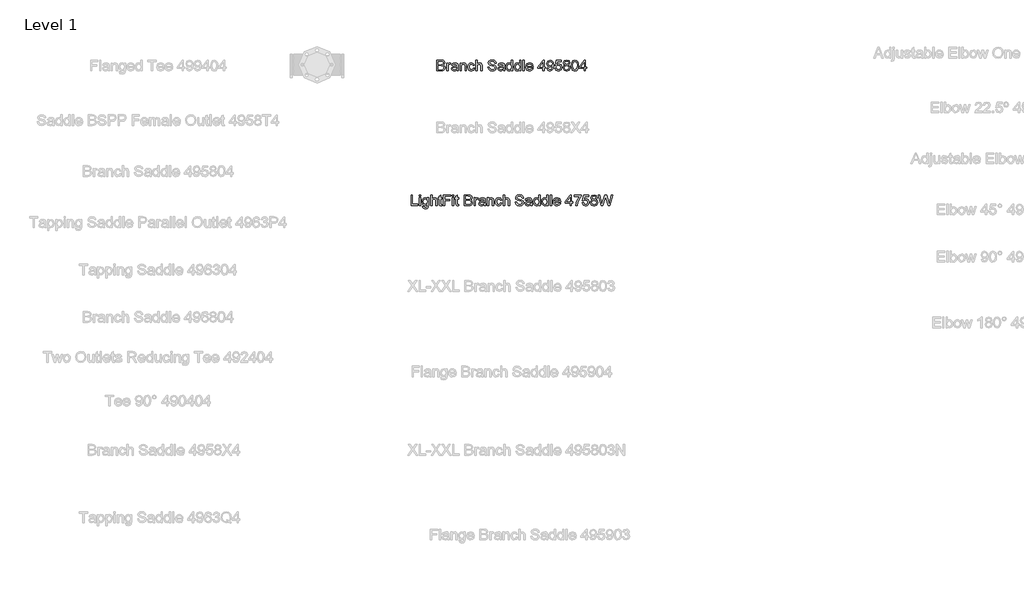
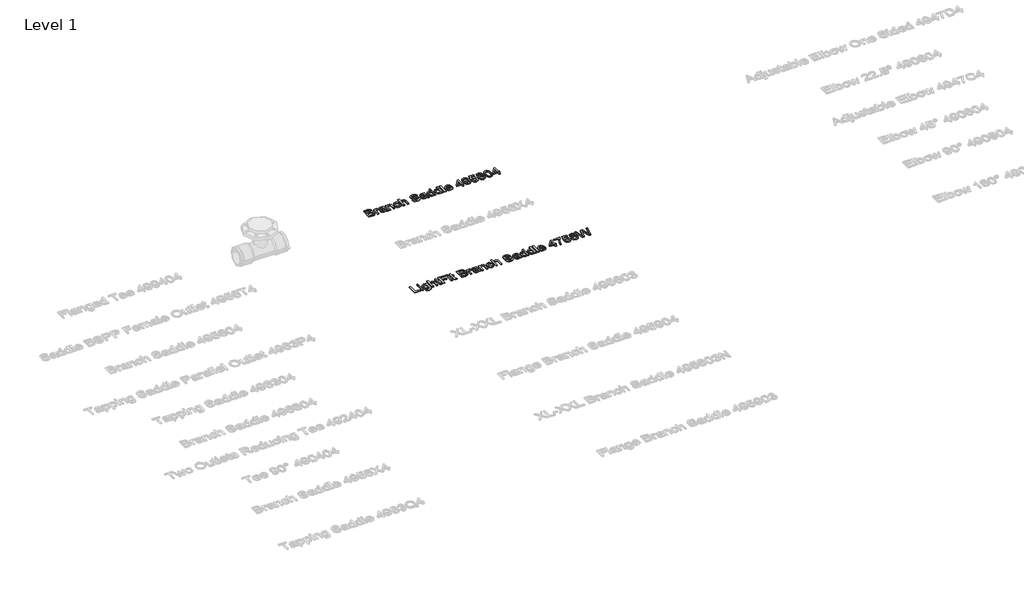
# One storey, part 13 of 38: 2 proxies.
"""IFC4 building model written with IfcOpenShell, lengths in millimetres."""

from ifc_helpers import new_model, si_unit, origin, origin_with_axes, place, context, project, spatial, polyline, outline, extrude, element, save

model = new_model("IFC4")

# Units and contexts
model_context = context("Model", 3, world=origin())
ifc_project = project(units=[si_unit("LENGTHUNIT", "METRE", prefix="MILLI")], contexts=[model_context])

# Site, building, storey
site = spatial("IfcSite", under=ifc_project)
building = spatial("IfcBuilding", under=site)
storey = spatial("IfcBuildingStorey", under=building, Name="Level 1", Elevation=0.0)

# Proxies
placement = place(None, origin())
element("IfcBuildingElementProxy", 1, Name="100 mm Arial", ObjectType="100 mm Arial", at=placement, inside=storey, context=model_context, shape_type="SweptSolid", body=[
    extrude(outline(polyline([(8447.9808456, 4197.5779735), (8447.9808456, 4256.6548966), (8455.365461, 4256.6548966), (8455.365461, 4204.9625889), (8484.9039226, 4204.9625889), (8484.9039226, 4197.5779735), (8447.9808456, 4197.5779735)])), origin_with_axes(), (0.0, 0.0, 1.0), 5.0),
    extrude(outline(polyline([(8492.288538, 4249.2702812), (8492.288538, 4256.6548966), (8499.6731533, 4256.6548966), (8499.6731533, 4249.2702812), (8492.288538, 4249.2702812)])), origin_with_axes(), (0.0, 0.0, 1.0), 5.0),
    extrude(outline(polyline([(8492.288538, 4197.5779735), (8492.288538, 4240.9625889), (8499.6731533, 4240.9625889), (8499.6731533, 4197.5779735), (8492.288538, 4197.5779735)])), origin_with_axes(), (0.0, 0.0, 1.0), 5.0),
    extrude(outline(polyline([(8508.9039226, 4193.8856658), (8516.288538, 4192.9625889), (8518.6827687, 4189.0683582), (8525.851038, 4187.4241274), (8533.4087303, 4189.2847043), (8537.0144995, 4194.5058582), (8537.5193072, 4203.1164351), (8525.9808456, 4197.5779735), (8518.3672639, 4199.1897524), (8512.6899803, 4204.0250889), (8507.9808456, 4219.4866274), (8510.0938264, 4230.9313389), (8516.209211, 4239.0298966), (8525.6202687, 4241.8856658), (8532.2080091, 4240.2702812), (8537.5193072, 4235.4241274), (8537.5193072, 4240.9625889), (8544.9039226, 4240.9625889), (8544.9039226, 4203.5058582), (8542.8846918, 4189.1621082), (8536.4880572, 4182.4914351), (8525.7068072, 4180.039512), (8513.4255572, 4183.4938389), (8508.9039226, 4193.8856658)]), holes=[polyline([(8515.365461, 4219.9914351), (8518.5169033, 4208.5611466), (8526.427961, 4204.9625889), (8534.3245956, 4208.539512), (8537.5193072, 4219.7750889), (8534.2308456, 4230.7871082), (8526.3125764, 4234.5010505), (8518.5601726, 4230.8448005), (8515.365461, 4219.9914351)])]), origin_with_axes(), (0.0, 0.0, 1.0), 5.0),
    extrude(outline(polyline([(8555.9808456, 4197.5779735), (8555.9808456, 4256.6548966), (8563.365461, 4256.6548966), (8563.365461, 4234.9337428), (8569.1238745, 4240.1476851), (8576.2164226, 4241.8856658), (8584.5096918, 4239.9890312), (8589.5433456, 4234.7462428), (8591.0577687, 4225.039512), (8591.0577687, 4197.5779735), (8583.6731533, 4197.5779735), (8583.6731533, 4224.2750889), (8581.3221918, 4232.0635505), (8574.6587303, 4234.5010505), (8568.6082495, 4232.8568197), (8564.569788, 4228.4000889), (8563.365461, 4220.6260505), (8563.365461, 4197.5779735), (8555.9808456, 4197.5779735)])), origin_with_axes(), (0.0, 0.0, 1.0), 5.0),
    extrude(outline(polyline([(8616.9039226, 4203.7366274), (8617.8269995, 4197.3616274), (8612.302961, 4196.6548966), (8606.115461, 4197.8808582), (8603.0289226, 4201.0972043), (8602.1346918, 4209.477012), (8602.1346918, 4233.5779735), (8596.5962303, 4233.5779735), (8596.5962303, 4240.9625889), (8602.1346918, 4240.9625889), (8602.1346918, 4251.5058582), (8609.5193072, 4255.8472043), (8609.5193072, 4240.9625889), (8616.9039226, 4240.9625889), (8616.9039226, 4233.5779735), (8609.5193072, 4233.5779735), (8609.5193072, 4209.6933582), (8609.9087303, 4205.8856658), (8611.1707495, 4204.5371082), (8613.6875764, 4204.039512), (8616.9039226, 4203.7366274)])), origin_with_axes(), (0.0, 0.0, 1.0), 5.0),
    extrude(outline(polyline([(8625.2116149, 4197.5779735), (8625.2116149, 4256.6548966), (8664.9039226, 4256.6548966), (8664.9039226, 4249.2702812), (8632.5962303, 4249.2702812), (8632.5962303, 4231.7318197), (8660.288538, 4231.7318197), (8660.288538, 4224.3472043), (8632.5962303, 4224.3472043), (8632.5962303, 4197.5779735), (8625.2116149, 4197.5779735)])), origin_with_axes(), (0.0, 0.0, 1.0), 5.0),
    extrude(outline(polyline([(8674.1346918, 4197.5779735), (8674.1346918, 4240.9625889), (8681.5193072, 4240.9625889), (8681.5193072, 4197.5779735), (8674.1346918, 4197.5779735)])), origin_with_axes(), (0.0, 0.0, 1.0), 5.0),
    extrude(outline(polyline([(8674.1346918, 4249.2702812), (8674.1346918, 4256.6548966), (8681.5193072, 4256.6548966), (8681.5193072, 4249.2702812), (8674.1346918, 4249.2702812)])), origin_with_axes(), (0.0, 0.0, 1.0), 5.0),
    extrude(outline(polyline([(8708.288538, 4203.7366274), (8709.2116149, 4197.3616274), (8703.6875764, 4196.6548966), (8697.5000764, 4197.8808582), (8694.413538, 4201.0972043), (8693.5193072, 4209.477012), (8693.5193072, 4233.5779735), (8687.9808456, 4233.5779735), (8687.9808456, 4240.9625889), (8693.5193072, 4240.9625889), (8693.5193072, 4251.5058582), (8700.9039226, 4255.8472043), (8700.9039226, 4240.9625889), (8708.288538, 4240.9625889), (8708.288538, 4233.5779735), (8700.9039226, 4233.5779735), (8700.9039226, 4209.6933582), (8701.2933456, 4205.8856658), (8702.5553649, 4204.5371082), (8705.0721918, 4204.039512), (8708.288538, 4203.7366274)])), origin_with_axes(), (0.0, 0.0, 1.0), 5.0),
    extrude(outline(polyline([(8739.6731533, 4197.5779735), (8739.6731533, 4256.6548966), (8762.2164226, 4256.6548966), (8773.257288, 4254.9169158), (8779.7765187, 4249.5731658), (8782.1346918, 4242.0154735), (8780.1515187, 4235.1140312), (8774.1587303, 4229.8856658), (8781.4351726, 4224.3760505), (8783.9808456, 4215.1885505), (8782.2428649, 4207.2486466), (8777.9375764, 4201.5948005), (8771.5120956, 4198.5948005), (8762.0433456, 4197.5779735), (8739.6731533, 4197.5779735)]), holes=[polyline([(8747.0577687, 4232.6548966), (8760.5433456, 4232.6548966), (8768.4183456, 4233.289512), (8773.1563264, 4236.0226851), (8774.7500764, 4240.8327812), (8773.2644995, 4245.6500889), (8769.0096918, 4248.4986466), (8759.5193072, 4249.2702812), (8747.0577687, 4249.2702812), (8747.0577687, 4232.6548966)]), polyline([(8747.0577687, 4204.9625889), (8762.2019995, 4204.9625889), (8767.6827687, 4205.2510505), (8772.319788, 4206.8592235), (8775.3919033, 4210.1404735), (8776.5962303, 4215.1164351), (8775.1827687, 4220.8568197), (8770.6034418, 4224.2823005), (8761.4808456, 4225.2702812), (8747.0577687, 4225.2702812), (8747.0577687, 4204.9625889)])]), origin_with_axes(), (0.0, 0.0, 1.0), 5.0),
    extrude(outline(polyline([(8793.2116149, 4197.5779735), (8793.2116149, 4240.9625889), (8799.6731533, 4240.9625889), (8799.6731533, 4234.5443197), (8804.2596918, 4240.4577812), (8808.8750764, 4241.8856658), (8816.288538, 4239.6068197), (8813.8221918, 4232.9866274), (8808.6298841, 4234.5010505), (8804.4544033, 4233.0443197), (8801.7933456, 4229.0058582), (8800.5962303, 4220.3808582), (8800.5962303, 4197.5779735), (8793.2116149, 4197.5779735)])), origin_with_axes(), (0.0, 0.0, 1.0), 5.0),
    extrude(outline(polyline([(8848.5962303, 4203.1164351), (8841.4351726, 4198.1116274), (8833.5241149, 4196.6548966), (8822.8005572, 4200.1597043), (8819.0577687, 4209.1164351), (8820.4712303, 4214.9577812), (8824.1851726, 4219.1981658), (8829.3558456, 4221.6212428), (8835.7452687, 4222.7318197), (8848.552961, 4225.2702812), (8848.5962303, 4226.914512), (8846.5625764, 4232.3664351), (8838.3991149, 4234.5010505), (8830.927961, 4233.0803774), (8827.365461, 4228.039512), (8819.9808456, 4228.9625889), (8823.1755572, 4236.1741274), (8829.6082495, 4240.4000889), (8839.351038, 4241.8856658), (8848.3005572, 4240.5731658), (8853.3558456, 4237.2774928), (8855.6202687, 4232.2654735), (8855.9808456, 4225.8039351), (8855.9808456, 4216.6164351), (8856.3558456, 4203.7871082), (8857.8269995, 4197.5779735), (8850.4423841, 4197.5779735), (8848.5962303, 4203.1164351)]), holes=[polyline([(8848.5962303, 4217.8856658), (8836.6827687, 4215.6212428), (8830.3294033, 4214.4241274), (8827.4519995, 4212.477012), (8826.4423841, 4209.6356658), (8828.6419033, 4205.6404735), (8835.0962303, 4204.039512), (8842.5673841, 4205.8063389), (8847.3846918, 4210.0827812), (8848.552961, 4215.7943197), (8848.5962303, 4217.8856658)])]), origin_with_axes(), (0.0, 0.0, 1.0), 5.0),
    extrude(outline(polyline([(8866.1346918, 4197.5779735), (8866.1346918, 4240.9625889), (8873.5193072, 4240.9625889), (8873.5193072, 4234.9048966), (8879.1659418, 4240.1404735), (8886.8750764, 4241.8856658), (8893.8486341, 4240.4794158), (8898.6082495, 4236.7871082), (8900.8221918, 4231.3568197), (8901.2116149, 4224.2173966), (8901.2116149, 4197.5779735), (8893.8269995, 4197.5779735), (8893.8269995, 4223.2222043), (8892.976038, 4229.7558582), (8889.9688264, 4233.2101851), (8884.8991149, 4234.5010505), (8876.8870956, 4231.602012), (8873.5193072, 4220.5972043), (8873.5193072, 4197.5779735), (8866.1346918, 4197.5779735)])), origin_with_axes(), (0.0, 0.0, 1.0), 5.0),
    extrude(outline(polyline([(8939.0577687, 4213.2702812), (8946.4423841, 4212.3472043), (8940.5144995, 4200.8159543), (8928.802961, 4196.6548966), (8920.9477928, 4198.1062187), (8914.8053649, 4202.4601851), (8910.8408216, 4209.5256899), (8909.5193072, 4219.1116274), (8911.7765187, 4231.3784543), (8918.6563264, 4239.2606658), (8928.7019995, 4241.8856658), (8939.9303649, 4238.2798966), (8945.5193072, 4228.039512), (8938.1346918, 4227.1164351), (8934.709211, 4232.6476851), (8928.7596918, 4234.5010505), (8920.1995956, 4230.852012), (8916.9039226, 4219.3135505), (8920.1274803, 4207.6669158), (8928.5577687, 4204.039512), (8935.5169033, 4206.3039351), (8939.0577687, 4213.2702812)])), origin_with_axes(), (0.0, 0.0, 1.0), 5.0),
    extrude(outline(polyline([(8952.9039226, 4197.5779735), (8952.9039226, 4256.6548966), (8960.288538, 4256.6548966), (8960.288538, 4234.9337428), (8966.0469514, 4240.1476851), (8973.1394995, 4241.8856658), (8981.4327687, 4239.9890312), (8986.4664226, 4234.7462428), (8987.9808456, 4225.039512), (8987.9808456, 4197.5779735), (8980.5962303, 4197.5779735), (8980.5962303, 4224.2750889), (8978.2452687, 4232.0635505), (8971.5818072, 4234.5010505), (8965.5313264, 4232.8568197), (8961.4928649, 4228.4000889), (8960.288538, 4220.6260505), (8960.288538, 4197.5779735), (8952.9039226, 4197.5779735)])), origin_with_axes(), (0.0, 0.0, 1.0), 5.0),
    extrude(outline(polyline([(9019.365461, 4217.8856658), (9026.7500764, 4217.8856658), (9029.1298841, 4210.4938389), (9034.9423841, 4205.820762), (9043.7981533, 4204.039512), (9051.5144995, 4205.3880697), (9056.4976726, 4209.0948005), (9058.1346918, 4214.0491274), (9056.9087303, 4218.6573005), (9051.8894995, 4222.0106658), (9041.1370956, 4224.8303774), (9029.5625764, 4228.4722043), (9023.2813264, 4233.9673966), (9021.2116149, 4241.3087428), (9023.771711, 4249.6669158), (9031.2500764, 4255.5659543), (9042.1971918, 4257.5779735), (9053.8798841, 4255.4722043), (9061.6683456, 4249.2847043), (9064.5962303, 4240.039512), (9057.2116149, 4240.039512), (9053.0289226, 4247.6260505), (9042.4856533, 4250.1933582), (9031.913538, 4247.6548966), (9028.5962303, 4241.5250889), (9030.9471918, 4236.4048966), (9043.0048841, 4232.2798966), (9056.0721918, 4228.5731658), (9063.2188264, 4222.5875889), (9065.5193072, 4214.2366274), (9062.8726726, 4205.4024928), (9055.257288, 4198.9553774), (9044.0866149, 4196.6548966), (9030.896711, 4199.1356658), (9022.552961, 4206.6068197), (9019.365461, 4217.8856658)])), origin_with_axes(), (0.0, 0.0, 1.0), 5.0),
    extrude(outline(polyline([(9103.365461, 4203.1164351), (9096.2044033, 4198.1116274), (9088.2933456, 4196.6548966), (9077.569788, 4200.1597043), (9073.8269995, 4209.1164351), (9075.240461, 4214.9577812), (9078.9544033, 4219.1981658), (9084.1250764, 4221.6212428), (9090.5144995, 4222.7318197), (9103.3221918, 4225.2702812), (9103.365461, 4226.914512), (9101.3318072, 4232.3664351), (9093.1683456, 4234.5010505), (9085.6971918, 4233.0803774), (9082.1346918, 4228.039512), (9074.7500764, 4228.9625889), (9077.944788, 4236.1741274), (9084.3774803, 4240.4000889), (9094.1202687, 4241.8856658), (9103.069788, 4240.5731658), (9108.1250764, 4237.2774928), (9110.3894995, 4232.2654735), (9110.7500764, 4225.8039351), (9110.7500764, 4216.6164351), (9111.1250764, 4203.7871082), (9112.5962303, 4197.5779735), (9105.2116149, 4197.5779735), (9103.365461, 4203.1164351)]), holes=[polyline([(9103.365461, 4217.8856658), (9091.4519995, 4215.6212428), (9085.0986341, 4214.4241274), (9082.2212303, 4212.477012), (9081.2116149, 4209.6356658), (9083.4111341, 4205.6404735), (9089.865461, 4204.039512), (9097.3366149, 4205.8063389), (9102.1539226, 4210.0827812), (9103.3221918, 4215.7943197), (9103.365461, 4217.8856658)])]), origin_with_axes(), (0.0, 0.0, 1.0), 5.0),
    extrude(outline(polyline([(9147.6731533, 4197.5779735), (9147.6731533, 4204.5443197), (9142.787336, 4198.6272524), (9136.0337303, 4196.6548966), (9126.8894995, 4199.5106658), (9120.427961, 4207.4794158), (9118.1346918, 4219.227012), (9120.2476726, 4230.9818197), (9126.5794033, 4239.0731658), (9136.0048841, 4241.8856658), (9142.8125764, 4239.8736466), (9147.6731533, 4234.6452812), (9147.6731533, 4256.6548966), (9155.0577687, 4256.6548966), (9155.0577687, 4197.5779735), (9147.6731533, 4197.5779735)]), holes=[polyline([(9125.5193072, 4219.2558582), (9128.851038, 4207.8255697), (9136.7116149, 4204.039512), (9144.4784418, 4207.6524928), (9147.6731533, 4218.6933582), (9144.4207495, 4230.6789351), (9136.4087303, 4234.5010505), (9128.6346918, 4230.8303774), (9125.5193072, 4219.2558582)])]), origin_with_axes(), (0.0, 0.0, 1.0), 5.0),
    extrude(outline(polyline([(9192.9039226, 4197.5779735), (9192.9039226, 4204.5443197), (9188.0181053, 4198.6272524), (9181.2644995, 4196.6548966), (9172.1202687, 4199.5106658), (9165.6587303, 4207.4794158), (9163.365461, 4219.227012), (9165.4784418, 4230.9818197), (9171.8101726, 4239.0731658), (9181.2356533, 4241.8856658), (9188.0433456, 4239.8736466), (9192.9039226, 4234.6452812), (9192.9039226, 4256.6548966), (9200.288538, 4256.6548966), (9200.288538, 4197.5779735), (9192.9039226, 4197.5779735)]), holes=[polyline([(9170.7500764, 4219.2558582), (9174.0818072, 4207.8255697), (9181.9423841, 4204.039512), (9189.709211, 4207.6524928), (9192.9039226, 4218.6933582), (9189.6515187, 4230.6789351), (9181.6394995, 4234.5010505), (9173.865461, 4230.8303774), (9170.7500764, 4219.2558582)])]), origin_with_axes(), (0.0, 0.0, 1.0), 5.0),
    extrude(outline(polyline([(9211.365461, 4197.5779735), (9211.365461, 4256.6548966), (9218.7500764, 4256.6548966), (9218.7500764, 4197.5779735), (9211.365461, 4197.5779735)])), origin_with_axes(), (0.0, 0.0, 1.0), 5.0),
    extrude(outline(polyline([(9260.2019995, 4210.5010505), (9267.4423841, 4209.5779735), (9260.6707495, 4200.0443197), (9248.0577687, 4196.6548966), (9239.3931053, 4198.117036), (9232.726038, 4202.5034543), (9228.474836, 4209.5292957), (9227.0577687, 4218.9097043), (9228.4892591, 4228.6056178), (9232.7837303, 4235.8568197), (9239.3606533, 4240.3784543), (9247.6394995, 4241.8856658), (9255.6605331, 4240.3820601), (9262.069788, 4235.8712428), (9266.272312, 4228.6344639), (9267.6731533, 4218.9529735), (9267.6298841, 4216.9625889), (9234.4423841, 4216.9625889), (9238.6899803, 4207.3712428), (9248.2019995, 4204.039512), (9255.4423841, 4205.5827812), (9260.2019995, 4210.5010505)]), holes=[polyline([(9234.4423841, 4224.3472043), (9260.288538, 4224.3472043), (9257.3318072, 4231.039512), (9247.6106533, 4234.5010505), (9238.5169033, 4231.7390312), (9234.4423841, 4224.3472043)])]), origin_with_axes(), (0.0, 0.0, 1.0), 5.0),
    extrude(outline(polyline([(9320.288538, 4197.5779735), (9320.288538, 4211.4241274), (9293.5193072, 4211.4241274), (9293.5193072, 4218.8087428), (9322.1346918, 4255.7318197), (9327.6731533, 4255.7318197), (9327.6731533, 4218.8087428), (9335.0577687, 4218.8087428), (9335.0577687, 4211.4241274), (9327.6731533, 4211.4241274), (9327.6731533, 4197.5779735), (9320.288538, 4197.5779735)]), holes=[polyline([(9320.288538, 4218.8087428), (9320.288538, 4241.6260505), (9302.6058456, 4218.8087428), (9320.288538, 4218.8087428)])]), origin_with_axes(), (0.0, 0.0, 1.0), 5.0),
    extrude(outline(polyline([(9341.5193072, 4248.3472043), (9341.5193072, 4255.7318197), (9380.288538, 4255.7318197), (9380.288538, 4249.7606658), (9369.2909418, 4233.8736466), (9360.8750764, 4213.6308582), (9358.1346918, 4197.5779735), (9350.7500764, 4197.5779735), (9353.6851726, 4214.2366274), (9361.740461, 4233.0659543), (9372.9039226, 4248.3472043), (9341.5193072, 4248.3472043)])), origin_with_axes(), (0.0, 0.0, 1.0), 5.0),
    extrude(outline(polyline([(9386.7500764, 4213.2702812), (9394.1346918, 4214.1933582), (9397.8558456, 4206.5851851), (9405.5721918, 4204.039512), (9414.8318072, 4207.5803774), (9418.1346918, 4216.977012), (9415.0409418, 4225.7462428), (9405.6875764, 4228.9625889), (9399.2044033, 4227.6789351), (9395.0577687, 4224.3472043), (9387.6731533, 4225.2702812), (9394.1346918, 4255.7318197), (9422.7500764, 4255.7318197), (9422.7500764, 4248.3472043), (9400.1058456, 4248.3472043), (9396.9471918, 4232.0779735), (9407.7500764, 4236.3472043), (9420.3774803, 4231.0539351), (9425.5193072, 4217.4385505), (9420.8894995, 4203.7366274), (9414.240461, 4198.4253293), (9405.5433456, 4196.6548966), (9392.5120956, 4201.2053774), (9386.7500764, 4213.2702812)])), origin_with_axes(), (0.0, 0.0, 1.0), 5.0),
    extrude(outline(polyline([(9442.740461, 4230.1164351), (9436.0120956, 4234.7029735), (9433.8269995, 4241.8423966), (9438.5866149, 4252.3856658), (9451.2644995, 4256.6548966), (9464.0577687, 4252.2847043), (9468.9039226, 4241.6404735), (9466.7476726, 4234.6813389), (9460.2068072, 4230.1164351), (9468.0601726, 4224.3255697), (9470.7500764, 4214.7702812), (9465.413538, 4201.8760505), (9451.365461, 4196.6548966), (9437.3173841, 4201.8976851), (9431.9808456, 4214.9722043), (9434.7789226, 4224.7510505), (9442.740461, 4230.1164351)]), holes=[polyline([(9441.2116149, 4241.6260505), (9443.8294033, 4235.8279735), (9451.4519995, 4233.5779735), (9458.9231533, 4235.8135505), (9461.5193072, 4241.2943197), (9458.8366149, 4246.9698005), (9451.365461, 4249.2702812), (9443.8726726, 4247.0202812), (9441.2116149, 4241.6260505)]), polyline([(9439.365461, 4215.2318197), (9440.5986341, 4209.6717235), (9444.9616149, 4205.5106658), (9451.4231533, 4204.039512), (9460.2212303, 4207.133262), (9463.365461, 4215.0010505), (9460.1202687, 4223.0202812), (9451.177961, 4226.1933582), (9442.4880572, 4223.0635505), (9439.365461, 4215.2318197)])]), origin_with_axes(), (0.0, 0.0, 1.0), 5.0),
    extrude(outline(polyline([(9490.552961, 4197.5779735), (9474.4423841, 4256.6548966), (9482.0577687, 4256.6548966), (9491.4039226, 4217.8279735), (9494.288538, 4205.8423966), (9497.3750764, 4216.4433582), (9509.0866149, 4256.6548966), (9520.0625764, 4256.6548966), (9528.5721918, 4227.5058582), (9534.9039226, 4205.8423966), (9537.7019995, 4217.4818197), (9547.1346918, 4256.6548966), (9554.7500764, 4256.6548966), (9538.6250764, 4197.5779735), (9530.7356533, 4197.5779735), (9516.5721918, 4243.1548966), (9514.5962303, 4249.5154735), (9512.3750764, 4241.8568197), (9499.4664226, 4197.5779735), (9490.552961, 4197.5779735)])), origin_with_axes(), (0.0, 0.0, 1.0), 5.0),
])
element("IfcBuildingElementProxy", 2, Name="100 mm Arial", ObjectType="100 mm Arial", at=placement, inside=storey, context=model_context, shape_type="SweptSolid", body=[
    extrude(outline(polyline([(8589.6731533, 4937.5779735), (8589.6731533, 4996.6548966), (8612.2164226, 4996.6548966), (8623.257288, 4994.9169158), (8629.7765187, 4989.5731658), (8632.1346918, 4982.0154735), (8630.1515187, 4975.1140312), (8624.1587303, 4969.8856658), (8631.4351726, 4964.3760505), (8633.9808456, 4955.1885505), (8632.2428649, 4947.2486466), (8627.9375764, 4941.5948005), (8621.5120956, 4938.5948005), (8612.0433456, 4937.5779735), (8589.6731533, 4937.5779735)]), holes=[polyline([(8597.0577687, 4944.9625889), (8612.2019995, 4944.9625889), (8617.6827687, 4945.2510505), (8622.319788, 4946.8592235), (8625.3919033, 4950.1404735), (8626.5962303, 4955.1164351), (8625.1827687, 4960.8568197), (8620.6034418, 4964.2823005), (8611.4808456, 4965.2702812), (8597.0577687, 4965.2702812), (8597.0577687, 4944.9625889)]), polyline([(8597.0577687, 4972.6548966), (8610.5433456, 4972.6548966), (8618.4183456, 4973.289512), (8623.1563264, 4976.0226851), (8624.7500764, 4980.8327812), (8623.2644995, 4985.6500889), (8619.0096918, 4988.4986466), (8609.5193072, 4989.2702812), (8597.0577687, 4989.2702812), (8597.0577687, 4972.6548966)])]), origin_with_axes(), (0.0, 0.0, 1.0), 5.0),
    extrude(outline(polyline([(8643.2116149, 4937.5779735), (8643.2116149, 4980.9625889), (8649.6731533, 4980.9625889), (8649.6731533, 4974.5443197), (8654.2596918, 4980.4577812), (8658.8750764, 4981.8856658), (8666.288538, 4979.6068197), (8663.8221918, 4972.9866274), (8658.6298841, 4974.5010505), (8654.4544033, 4973.0443197), (8651.7933456, 4969.0058582), (8650.5962303, 4960.3808582), (8650.5962303, 4937.5779735), (8643.2116149, 4937.5779735)])), origin_with_axes(), (0.0, 0.0, 1.0), 5.0),
    extrude(outline(polyline([(8698.5962303, 4943.1164351), (8691.4351726, 4938.1116274), (8683.5241149, 4936.6548966), (8672.8005572, 4940.1597043), (8669.0577687, 4949.1164351), (8670.4712303, 4954.9577812), (8674.1851726, 4959.1981658), (8679.3558456, 4961.6212428), (8685.7452687, 4962.7318197), (8698.552961, 4965.2702812), (8698.5962303, 4966.914512), (8696.5625764, 4972.3664351), (8688.3991149, 4974.5010505), (8680.927961, 4973.0803774), (8677.365461, 4968.039512), (8669.9808456, 4968.9625889), (8673.1755572, 4976.1741274), (8679.6082495, 4980.4000889), (8689.351038, 4981.8856658), (8698.3005572, 4980.5731658), (8703.3558456, 4977.2774928), (8705.6202687, 4972.2654735), (8705.9808456, 4965.8039351), (8705.9808456, 4956.6164351), (8706.3558456, 4943.7871082), (8707.8269995, 4937.5779735), (8700.4423841, 4937.5779735), (8698.5962303, 4943.1164351)]), holes=[polyline([(8698.5962303, 4957.8856658), (8686.6827687, 4955.6212428), (8680.3294033, 4954.4241274), (8677.4519995, 4952.477012), (8676.4423841, 4949.6356658), (8678.6419033, 4945.6404735), (8685.0962303, 4944.039512), (8692.5673841, 4945.8063389), (8697.3846918, 4950.0827812), (8698.552961, 4955.7943197), (8698.5962303, 4957.8856658)])]), origin_with_axes(), (0.0, 0.0, 1.0), 5.0),
    extrude(outline(polyline([(8716.1346918, 4937.5779735), (8716.1346918, 4980.9625889), (8723.5193072, 4980.9625889), (8723.5193072, 4974.9048966), (8729.1659418, 4980.1404735), (8736.8750764, 4981.8856658), (8743.8486341, 4980.4794158), (8748.6082495, 4976.7871082), (8750.8221918, 4971.3568197), (8751.2116149, 4964.2173966), (8751.2116149, 4937.5779735), (8743.8269995, 4937.5779735), (8743.8269995, 4963.2222043), (8742.976038, 4969.7558582), (8739.9688264, 4973.2101851), (8734.8991149, 4974.5010505), (8726.8870956, 4971.602012), (8723.5193072, 4960.5972043), (8723.5193072, 4937.5779735), (8716.1346918, 4937.5779735)])), origin_with_axes(), (0.0, 0.0, 1.0), 5.0),
    extrude(outline(polyline([(8789.0577687, 4953.2702812), (8796.4423841, 4952.3472043), (8790.5144995, 4940.8159543), (8778.802961, 4936.6548966), (8770.9477928, 4938.1062187), (8764.8053649, 4942.4601851), (8760.8408216, 4949.5256899), (8759.5193072, 4959.1116274), (8761.7765187, 4971.3784543), (8768.6563264, 4979.2606658), (8778.7019995, 4981.8856658), (8789.9303649, 4978.2798966), (8795.5193072, 4968.039512), (8788.1346918, 4967.1164351), (8784.709211, 4972.6476851), (8778.7596918, 4974.5010505), (8770.1995956, 4970.852012), (8766.9039226, 4959.3135505), (8770.1274803, 4947.6669158), (8778.5577687, 4944.039512), (8785.5169033, 4946.3039351), (8789.0577687, 4953.2702812)])), origin_with_axes(), (0.0, 0.0, 1.0), 5.0),
    extrude(outline(polyline([(8802.9039226, 4937.5779735), (8802.9039226, 4996.6548966), (8810.288538, 4996.6548966), (8810.288538, 4974.9337428), (8816.0469514, 4980.1476851), (8823.1394995, 4981.8856658), (8831.4327687, 4979.9890312), (8836.4664226, 4974.7462428), (8837.9808456, 4965.039512), (8837.9808456, 4937.5779735), (8830.5962303, 4937.5779735), (8830.5962303, 4964.2750889), (8828.2452687, 4972.0635505), (8821.5818072, 4974.5010505), (8815.5313264, 4972.8568197), (8811.4928649, 4968.4000889), (8810.288538, 4960.6260505), (8810.288538, 4937.5779735), (8802.9039226, 4937.5779735)])), origin_with_axes(), (0.0, 0.0, 1.0), 5.0),
    extrude(outline(polyline([(8869.365461, 4957.8856658), (8876.7500764, 4957.8856658), (8879.1298841, 4950.4938389), (8884.9423841, 4945.820762), (8893.7981533, 4944.039512), (8901.5144995, 4945.3880697), (8906.4976726, 4949.0948005), (8908.1346918, 4954.0491274), (8906.9087303, 4958.6573005), (8901.8894995, 4962.0106658), (8891.1370956, 4964.8303774), (8879.5625764, 4968.4722043), (8873.2813264, 4973.9673966), (8871.2116149, 4981.3087428), (8873.771711, 4989.6669158), (8881.2500764, 4995.5659543), (8892.1971918, 4997.5779735), (8903.8798841, 4995.4722043), (8911.6683456, 4989.2847043), (8914.5962303, 4980.039512), (8907.2116149, 4980.039512), (8903.0289226, 4987.6260505), (8892.4856533, 4990.1933582), (8881.913538, 4987.6548966), (8878.5962303, 4981.5250889), (8880.9471918, 4976.4048966), (8893.0048841, 4972.2798966), (8906.0721918, 4968.5731658), (8913.2188264, 4962.5875889), (8915.5193072, 4954.2366274), (8912.8726726, 4945.4024928), (8905.257288, 4938.9553774), (8894.0866149, 4936.6548966), (8880.896711, 4939.1356658), (8872.552961, 4946.6068197), (8869.365461, 4957.8856658)])), origin_with_axes(), (0.0, 0.0, 1.0), 5.0),
    extrude(outline(polyline([(8953.365461, 4943.1164351), (8946.2044033, 4938.1116274), (8938.2933456, 4936.6548966), (8927.569788, 4940.1597043), (8923.8269995, 4949.1164351), (8925.240461, 4954.9577812), (8928.9544033, 4959.1981658), (8934.1250764, 4961.6212428), (8940.5144995, 4962.7318197), (8953.3221918, 4965.2702812), (8953.365461, 4966.914512), (8951.3318072, 4972.3664351), (8943.1683456, 4974.5010505), (8935.6971918, 4973.0803774), (8932.1346918, 4968.039512), (8924.7500764, 4968.9625889), (8927.944788, 4976.1741274), (8934.3774803, 4980.4000889), (8944.1202687, 4981.8856658), (8953.069788, 4980.5731658), (8958.1250764, 4977.2774928), (8960.3894995, 4972.2654735), (8960.7500764, 4965.8039351), (8960.7500764, 4956.6164351), (8961.1250764, 4943.7871082), (8962.5962303, 4937.5779735), (8955.2116149, 4937.5779735), (8953.365461, 4943.1164351)]), holes=[polyline([(8953.365461, 4957.8856658), (8941.4519995, 4955.6212428), (8935.0986341, 4954.4241274), (8932.2212303, 4952.477012), (8931.2116149, 4949.6356658), (8933.4111341, 4945.6404735), (8939.865461, 4944.039512), (8947.3366149, 4945.8063389), (8952.1539226, 4950.0827812), (8953.3221918, 4955.7943197), (8953.365461, 4957.8856658)])]), origin_with_axes(), (0.0, 0.0, 1.0), 5.0),
    extrude(outline(polyline([(8997.6731533, 4937.5779735), (8997.6731533, 4944.5443197), (8992.787336, 4938.6272524), (8986.0337303, 4936.6548966), (8976.8894995, 4939.5106658), (8970.427961, 4947.4794158), (8968.1346918, 4959.227012), (8970.2476726, 4970.9818197), (8976.5794033, 4979.0731658), (8986.0048841, 4981.8856658), (8992.8125764, 4979.8736466), (8997.6731533, 4974.6452812), (8997.6731533, 4996.6548966), (9005.0577687, 4996.6548966), (9005.0577687, 4937.5779735), (8997.6731533, 4937.5779735)]), holes=[polyline([(8975.5193072, 4959.2558582), (8978.851038, 4947.8255697), (8986.7116149, 4944.039512), (8994.4784418, 4947.6524928), (8997.6731533, 4958.6933582), (8994.4207495, 4970.6789351), (8986.4087303, 4974.5010505), (8978.6346918, 4970.8303774), (8975.5193072, 4959.2558582)])]), origin_with_axes(), (0.0, 0.0, 1.0), 5.0),
    extrude(outline(polyline([(9042.9039226, 4937.5779735), (9042.9039226, 4944.5443197), (9038.0181053, 4938.6272524), (9031.2644995, 4936.6548966), (9022.1202687, 4939.5106658), (9015.6587303, 4947.4794158), (9013.365461, 4959.227012), (9015.4784418, 4970.9818197), (9021.8101726, 4979.0731658), (9031.2356533, 4981.8856658), (9038.0433456, 4979.8736466), (9042.9039226, 4974.6452812), (9042.9039226, 4996.6548966), (9050.288538, 4996.6548966), (9050.288538, 4937.5779735), (9042.9039226, 4937.5779735)]), holes=[polyline([(9020.7500764, 4959.2558582), (9024.0818072, 4947.8255697), (9031.9423841, 4944.039512), (9039.709211, 4947.6524928), (9042.9039226, 4958.6933582), (9039.6515187, 4970.6789351), (9031.6394995, 4974.5010505), (9023.865461, 4970.8303774), (9020.7500764, 4959.2558582)])]), origin_with_axes(), (0.0, 0.0, 1.0), 5.0),
    extrude(outline(polyline([(9061.365461, 4937.5779735), (9061.365461, 4996.6548966), (9068.7500764, 4996.6548966), (9068.7500764, 4937.5779735), (9061.365461, 4937.5779735)])), origin_with_axes(), (0.0, 0.0, 1.0), 5.0),
    extrude(outline(polyline([(9110.2019995, 4950.5010505), (9117.4423841, 4949.5779735), (9110.6707495, 4940.0443197), (9098.0577687, 4936.6548966), (9089.3931053, 4938.117036), (9082.726038, 4942.5034543), (9078.474836, 4949.5292957), (9077.0577687, 4958.9097043), (9078.4892591, 4968.6056178), (9082.7837303, 4975.8568197), (9089.3606533, 4980.3784543), (9097.6394995, 4981.8856658), (9105.6605331, 4980.3820601), (9112.069788, 4975.8712428), (9116.272312, 4968.6344639), (9117.6731533, 4958.9529735), (9117.6298841, 4956.9625889), (9084.4423841, 4956.9625889), (9088.6899803, 4947.3712428), (9098.2019995, 4944.039512), (9105.4423841, 4945.5827812), (9110.2019995, 4950.5010505)]), holes=[polyline([(9084.4423841, 4964.3472043), (9110.288538, 4964.3472043), (9107.3318072, 4971.039512), (9097.6106533, 4974.5010505), (9088.5169033, 4971.7390312), (9084.4423841, 4964.3472043)])]), origin_with_axes(), (0.0, 0.0, 1.0), 5.0),
    extrude(outline(polyline([(9170.288538, 4937.5779735), (9170.288538, 4951.4241274), (9143.5193072, 4951.4241274), (9143.5193072, 4958.8087428), (9172.1346918, 4995.7318197), (9177.6731533, 4995.7318197), (9177.6731533, 4958.8087428), (9185.0577687, 4958.8087428), (9185.0577687, 4951.4241274), (9177.6731533, 4951.4241274), (9177.6731533, 4937.5779735), (9170.288538, 4937.5779735)]), holes=[polyline([(9170.288538, 4958.8087428), (9170.288538, 4981.6260505), (9152.6058456, 4958.8087428), (9170.288538, 4958.8087428)])]), origin_with_axes(), (0.0, 0.0, 1.0), 5.0),
    extrude(outline(polyline([(9192.4423841, 4952.3472043), (9199.8269995, 4953.2702812), (9203.1443072, 4946.2246082), (9209.4327687, 4944.039512), (9215.4111341, 4945.445762), (9219.4640187, 4949.2029735), (9221.8798841, 4955.6212428), (9222.9471918, 4964.1885505), (9216.9976726, 4960.0347043), (9208.8991149, 4957.8856658), (9196.5601726, 4963.1356658), (9191.5193072, 4976.9673966), (9196.8053649, 4991.2462428), (9210.052961, 4996.6548966), (9220.5745956, 4993.5683582), (9227.8149803, 4984.7702812), (9230.288538, 4968.2414351), (9227.8221918, 4950.3063389), (9220.4880572, 4940.1452812), (9209.0866149, 4936.6548966), (9197.7356533, 4940.7726851), (9192.4423841, 4952.3472043)]), holes=[polyline([(9222.9039226, 4977.1404735), (9219.7164226, 4985.9962428), (9211.2500764, 4989.2702812), (9202.365461, 4985.7438389), (9198.9039226, 4976.6068197), (9202.177961, 4968.4217235), (9211.0481533, 4965.2702812), (9219.5649803, 4968.4217235), (9222.9039226, 4977.1404735)])]), origin_with_axes(), (0.0, 0.0, 1.0), 5.0),
    extrude(outline(polyline([(9236.7500764, 4953.2702812), (9244.1346918, 4954.1933582), (9247.8558456, 4946.5851851), (9255.5721918, 4944.039512), (9264.8318072, 4947.5803774), (9268.1346918, 4956.977012), (9265.0409418, 4965.7462428), (9255.6875764, 4968.9625889), (9249.2044033, 4967.6789351), (9245.0577687, 4964.3472043), (9237.6731533, 4965.2702812), (9244.1346918, 4995.7318197), (9272.7500764, 4995.7318197), (9272.7500764, 4988.3472043), (9250.1058456, 4988.3472043), (9246.9471918, 4972.0779735), (9257.7500764, 4976.3472043), (9270.3774803, 4971.0539351), (9275.5193072, 4957.4385505), (9270.8894995, 4943.7366274), (9264.240461, 4938.4253293), (9255.5433456, 4936.6548966), (9242.5120956, 4941.2053774), (9236.7500764, 4953.2702812)])), origin_with_axes(), (0.0, 0.0, 1.0), 5.0),
    extrude(outline(polyline([(9292.740461, 4970.1164351), (9286.0120956, 4974.7029735), (9283.8269995, 4981.8423966), (9288.5866149, 4992.3856658), (9301.2644995, 4996.6548966), (9314.0577687, 4992.2847043), (9318.9039226, 4981.6404735), (9316.7476726, 4974.6813389), (9310.2068072, 4970.1164351), (9318.0601726, 4964.3255697), (9320.7500764, 4954.7702812), (9315.413538, 4941.8760505), (9301.365461, 4936.6548966), (9287.3173841, 4941.8976851), (9281.9808456, 4954.9722043), (9284.7789226, 4964.7510505), (9292.740461, 4970.1164351)]), holes=[polyline([(9291.2116149, 4981.6260505), (9293.8294033, 4975.8279735), (9301.4519995, 4973.5779735), (9308.9231533, 4975.8135505), (9311.5193072, 4981.2943197), (9308.8366149, 4986.9698005), (9301.365461, 4989.2702812), (9293.8726726, 4987.0202812), (9291.2116149, 4981.6260505)]), polyline([(9289.365461, 4955.2318197), (9290.5986341, 4949.6717235), (9294.9616149, 4945.5106658), (9301.4231533, 4944.039512), (9310.2212303, 4947.133262), (9313.365461, 4955.0010505), (9310.1202687, 4963.0202812), (9301.177961, 4966.1933582), (9292.4880572, 4963.0635505), (9289.365461, 4955.2318197)])]), origin_with_axes(), (0.0, 0.0, 1.0), 5.0),
    extrude(outline(polyline([(9327.2116149, 4966.6404735), (9329.382288, 4983.6380697), (9335.8294033, 4993.4385505), (9346.5962303, 4996.6548966), (9355.2212303, 4994.7510505), (9361.177961, 4989.2630697), (9364.6394995, 4980.5226851), (9365.9808456, 4966.6404735), (9363.8318072, 4949.7149928), (9357.4063264, 4939.8928774), (9346.5962303, 4936.6548966), (9338.9231533, 4938.0611466), (9333.0962303, 4942.2798966), (9328.6827687, 4952.2714832), (9327.2116149, 4966.6404735)]), holes=[polyline([(9334.5962303, 4966.6548966), (9338.0577687, 4948.3159543), (9346.5962303, 4944.039512), (9355.1346918, 4948.3303774), (9358.5962303, 4966.6548966), (9355.2500764, 4984.7847043), (9346.5096918, 4989.2702812), (9338.1731533, 4985.3183582), (9334.5962303, 4966.6548966)])]), origin_with_axes(), (0.0, 0.0, 1.0), 5.0),
    extrude(outline(polyline([(9396.4423841, 4937.5779735), (9396.4423841, 4951.4241274), (9369.6731533, 4951.4241274), (9369.6731533, 4958.8087428), (9398.288538, 4995.7318197), (9403.8269995, 4995.7318197), (9403.8269995, 4958.8087428), (9411.2116149, 4958.8087428), (9411.2116149, 4951.4241274), (9403.8269995, 4951.4241274), (9403.8269995, 4937.5779735), (9396.4423841, 4937.5779735)]), holes=[polyline([(9396.4423841, 4958.8087428), (9396.4423841, 4981.6260505), (9378.7596918, 4958.8087428), (9396.4423841, 4958.8087428)])]), origin_with_axes(), (0.0, 0.0, 1.0), 5.0),
])

save(model, "model.ifc")
